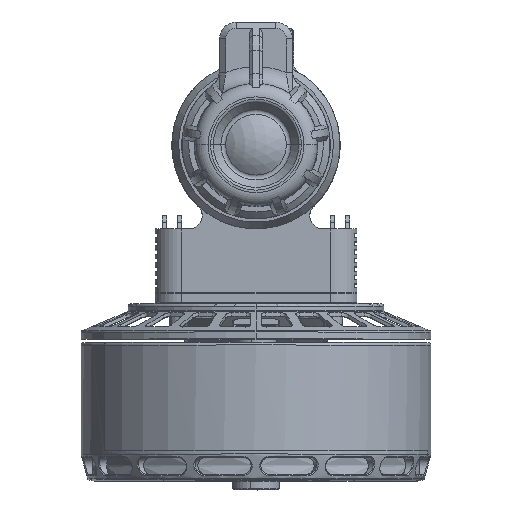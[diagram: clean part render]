
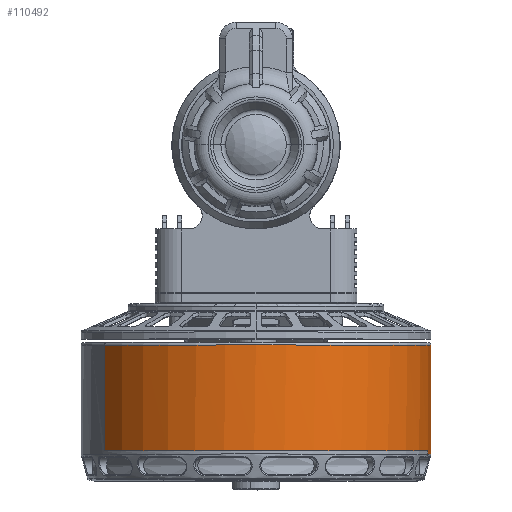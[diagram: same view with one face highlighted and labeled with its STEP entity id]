
A CAD part, top view. The second image highlights one B-rep face of the part: STEP entity #110492.
In plain terms, the highlighted cylindrical face has radius 52 mm (diameter 104 mm), a partial arc.
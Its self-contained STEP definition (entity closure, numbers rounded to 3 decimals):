
#58603=CARTESIAN_POINT('',(0.,-66.9,83.6));
#58604=DIRECTION('',(0.,-1.,0.));
#58605=DIRECTION('',(-0.981,0.,-0.195));
#58606=AXIS2_PLACEMENT_3D('',#58603,#58604,#58605);
#76203=DIRECTION('',(0.,1.,0.));
#76204=VECTOR('',#76203,31.4);
#76205=CARTESIAN_POINT('',(-45.064,-65.9,
109.547));
#76206=LINE('',#76205,#76204);
#76207=DIRECTION('',(0.,-1.,0.));
#76208=VECTOR('',#76207,1.);
#76209=CARTESIAN_POINT('',(-51.001,-65.9,
73.455));
#76210=LINE('',#76209,#76208);
#76211=CARTESIAN_POINT('',(0.,-65.9,83.6));
#76212=DIRECTION('',(0.,-1.,0.));
#76213=DIRECTION('',(-0.981,0.,-0.195));
#76214=AXIS2_PLACEMENT_3D('',#76211,#76212,#76213);
#76216=DIRECTION('',(0.,1.,0.));
#76217=VECTOR('',#76216,31.4);
#76218=CARTESIAN_POINT('',(45.064,-65.9,
57.653));
#76219=LINE('',#76218,#76217);
#76220=DIRECTION('',(0.,-1.,0.));
#76221=VECTOR('',#76220,1.);
#76222=CARTESIAN_POINT('',(51.001,-65.9,
93.745));
#76223=LINE('',#76222,#76221);
#76224=CARTESIAN_POINT('',(0.,-65.9,83.6));
#76225=DIRECTION('',(0.,-1.,0.));
#76226=DIRECTION('',(0.981,0.,0.195));
#76227=AXIS2_PLACEMENT_3D('',#76224,#76225,#76226);
#76234=CARTESIAN_POINT('',(0.,-34.5,83.6));
#76235=DIRECTION('',(0.,1.,0.));
#76236=DIRECTION('',(-0.867,0.,0.499));
#76237=AXIS2_PLACEMENT_3D('',#76234,#76235,#76236);
#78370=CARTESIAN_POINT('',(45.064,-34.5,
57.653));
#78371=CARTESIAN_POINT('',(-45.064,-34.5,
109.547));
#78372=VERTEX_POINT('',#78370);
#78373=VERTEX_POINT('',#78371);
#79137=CARTESIAN_POINT('',(51.001,-66.9,
93.745));
#79138=CARTESIAN_POINT('',(-51.001,-66.9,
73.455));
#79139=VERTEX_POINT('',#79137);
#79140=VERTEX_POINT('',#79138);
#81606=CARTESIAN_POINT('',(51.001,-65.9,
93.745));
#81607=CARTESIAN_POINT('',(-45.064,-65.9,
109.547));
#81608=VERTEX_POINT('',#81606);
#81609=VERTEX_POINT('',#81607);
#81806=CARTESIAN_POINT('',(-51.001,-65.9,
73.455));
#81807=CARTESIAN_POINT('',(45.064,-65.9,
57.653));
#81808=VERTEX_POINT('',#81806);
#81809=VERTEX_POINT('',#81807);
#110476=CARTESIAN_POINT('',(0.,-34.6,83.6));
#110477=DIRECTION('',(0.,-1.,0.));
#110478=DIRECTION('',(-0.867,0.,0.499));
#110479=AXIS2_PLACEMENT_3D('',#110476,#110477,#110478);
#110480=CYLINDRICAL_SURFACE('',#110479,52.);
#110481=ORIENTED_EDGE('',*,*,#110470,.F.);
#110482=ORIENTED_EDGE('',*,*,#110468,.F.);
#110483=ORIENTED_EDGE('',*,*,#110466,.T.);
#110484=ORIENTED_EDGE('',*,*,#83097,.T.);
#110485=ORIENTED_EDGE('',*,*,#110463,.F.);
#110486=ORIENTED_EDGE('',*,*,#110461,.T.);
#110487=ORIENTED_EDGE('',*,*,#110459,.T.);
#110489=ORIENTED_EDGE('',*,*,#110488,.T.);
#110490=EDGE_LOOP('',(#110481,#110482,#110483,#110484,#110485,#110486,#110487,
#110489));
#110491=FACE_OUTER_BOUND('',#110490,.F.);
#58607=CIRCLE('',#58606,52.);
#76215=CIRCLE('',#76214,52.);
#76228=CIRCLE('',#76227,52.);
#76238=CIRCLE('',#76237,52.);
#83097=EDGE_CURVE('',#79140,#79139,#58607,.T.);
#110459=EDGE_CURVE('',#81609,#78373,#76206,.T.);
#110461=EDGE_CURVE('',#81608,#81609,#76228,.T.);
#110463=EDGE_CURVE('',#81608,#79139,#76223,.T.);
#110466=EDGE_CURVE('',#81808,#79140,#76210,.T.);
#110468=EDGE_CURVE('',#81808,#81809,#76215,.T.);
#110470=EDGE_CURVE('',#81809,#78372,#76219,.T.);
#110488=EDGE_CURVE('',#78373,#78372,#76238,.T.);
#110492=ADVANCED_FACE('',(#110491),#110480,.T.);
